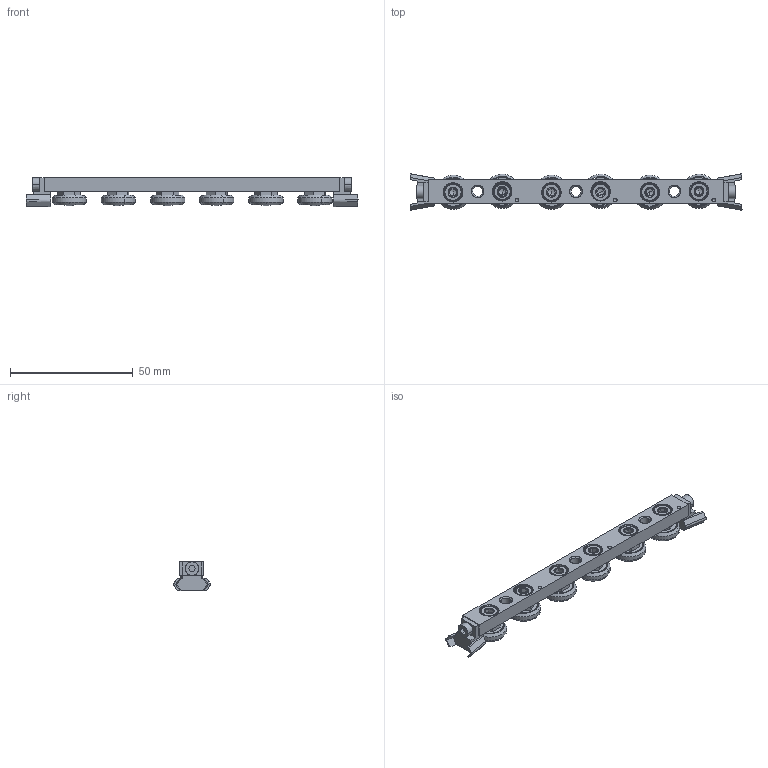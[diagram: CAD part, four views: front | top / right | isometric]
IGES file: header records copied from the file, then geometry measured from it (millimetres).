
Start section: SolidWorks IGES file using analytic representation for surfaces
Global section: file name: E:\J-00018 - L1918-L1963 LCompact Rail\L1918_v2\L1918.CSW18_v2\L1918.CSW18_IGES\L1918.CSW18-120-2ZTA.igs; native system: SolidWorks 2017; preprocessor: SolidWorks 2017; author: liam_; date: 190629.230655; units: millimetre
Bounding box: 135 x 14.8 x 11.95 mm (x, y, z)
Surface area: 10676.5 mm2 (no closed solid volume)
Topology: 0 solids, 0 shells, 602 faces, 7786 edges, 7748 vertices
Faces by surface type: bspline 330, revolution 272
